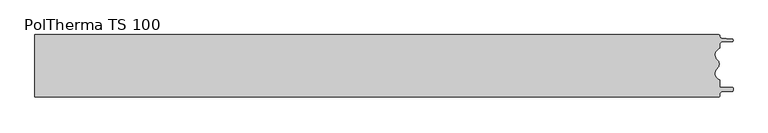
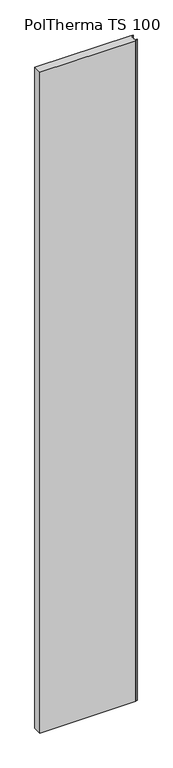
"""IFC4 building model written with IfcOpenShell, lengths in millimetres: plate geometry, Europanels_Poltherma TS_Vt : PolTherma TS 100."""

from ifc_helpers import new_model, si_unit, point, frame_2d, origin, origin_with_axes, place, context, project, spatial, polyline, circle_curve, trimmed, segment, composite_curve, outline, extrude, source, transform, mapped, element, save


def poltherma_ts_100_c626b90e(model_context):
    return source(origin(), model_context, "Body", "SweptSolid", [
        extrude(outline(composite_curve([segment(trimmed(circle_curve(frame_2d((538.1259015, 2.7)), 9.0), [point((544.0788419, 9.45))], [point((544.0788419, -4.05))], False, "CARTESIAN"), True, "CONTINUOUS"), segment(trimmed(circle_curve(frame_2d((551.354658, -12.3)), 11.0), [point((544.0788419, -4.05))], [point((548.5011047, -22.9234285))], True, "CARTESIAN"), True, "CONTINUOUS"), segment(polyline([(548.5011047, -22.9234285), (548.5011047, -33.6368016), (567.5840767, -34.4498501)]), True, "CONTINUOUS"), segment(trimmed(circle_curve(frame_2d((567.498942, -36.4480373)), 2.0), [point((567.5840767, -34.4498501))], [point((569.498942, -36.4480373))], False, "CARTESIAN"), True, "CONTINUOUS"), segment(polyline([(569.498942, -36.4480373), (569.498942, -39.1874198)]), True, "CONTINUOUS"), segment(trimmed(circle_curve(frame_2d((567.498942, -39.1874198)), 2.0), [point((569.498942, -39.1874198))], [point((567.6221823, -41.1836192))], False, "CARTESIAN"), True, "CONTINUOUS"), segment(polyline([(567.6221823, -41.1836192), (550.3757016, -42.2483736)]), True, "CONTINUOUS"), segment(trimmed(circle_curve(frame_2d((550.498942, -44.244573)), 2.0), [point((550.3757016, -42.2483736))], [point((548.498942, -44.244573))], True, "CARTESIAN"), True, "CONTINUOUS"), segment(polyline([(548.498942, -44.244573), (548.498942, -48.0)]), True, "CONTINUOUS"), segment(trimmed(circle_curve(frame_2d((546.498942, -48.0)), 2.0), [point((548.498942, -48.0))], [point((546.498942, -50.0))], False, "CARTESIAN"), True, "CONTINUOUS"), segment(polyline([(546.498942, -50.0), (-550.0, -50.0), (-550.0, 50.0), (546.5011047, 50.0)]), True, "CONTINUOUS"), segment(trimmed(circle_curve(frame_2d((546.5011047, 48.0)), 2.0), [point((546.5011047, 50.0))], [point((548.5011047, 48.0))], False, "CARTESIAN"), True, "CONTINUOUS"), segment(polyline([(548.5011047, 48.0), (548.5011047, 46.2557869)]), True, "CONTINUOUS"), segment(trimmed(circle_curve(frame_2d((550.5011047, 46.2557869)), 2.0), [point((548.5011047, 46.2557869))], [point((550.3765791, 44.2596673))], True, "CARTESIAN"), True, "CONTINUOUS"), segment(polyline([(550.3765791, 44.2596673), (567.4524091, 43.1944119)]), True, "CONTINUOUS"), segment(trimmed(circle_curve(frame_2d((567.3167265, 41.019447)), 2.179193), [point((567.4524091, 43.1944119))], [point((567.4102719, 38.8422628))], False, "CARTESIAN"), True, "CONTINUOUS"), segment(polyline([(567.4102719, 38.8422628), (550.4152514, 38.1120505)]), True, "CONTINUOUS"), segment(trimmed(circle_curve(frame_2d((550.5011047, 36.113894)), 2.0), [point((550.4152514, 38.1120505))], [point((548.5011047, 36.113894))], True, "CARTESIAN"), True, "CONTINUOUS"), segment(polyline([(548.5011047, 36.113894), (548.5011047, 28.3234285)]), True, "CONTINUOUS"), segment(trimmed(circle_curve(frame_2d((551.354658, 17.7)), 11.0), [point((548.5011047, 28.3234285))], [point((544.0788419, 9.45))], True, "CARTESIAN"), True, "CONTINUOUS")], self_intersect=False)), origin_with_axes(), (0.0, 0.0, 1.0), 8000.0),
    ])


if __name__ == "__main__":
    model = new_model("IFC4")
    model_context = context("Model", 3, world=origin())
    ifc_project = project(units=[si_unit("LENGTHUNIT", "METRE", prefix="MILLI")], contexts=[model_context])
    site = spatial("IfcSite", under=ifc_project)
    building = spatial("IfcBuilding", under=site)
    placement = place(None, origin())
    poltherma_ts_100_shape = poltherma_ts_100_c626b90e(model_context)
    element("IfcPlate", 1, ObjectType="Europanels_Poltherma TS_Vt : PolTherma TS 100", at=placement, inside=building, context=model_context, shape_type="MappedRepresentation", body=[
        mapped(poltherma_ts_100_shape, transform((0.0, 0.0, 0.0), x_axis=(1.0, 0.0, 0.0), y_axis=(0.0, 1.0, 0.0), z_axis=(0.0, 0.0, 1.0))),
    ])
    save(model, "model.ifc")
